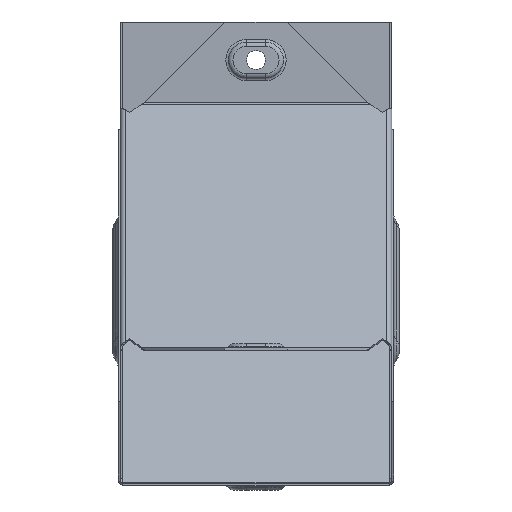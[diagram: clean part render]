
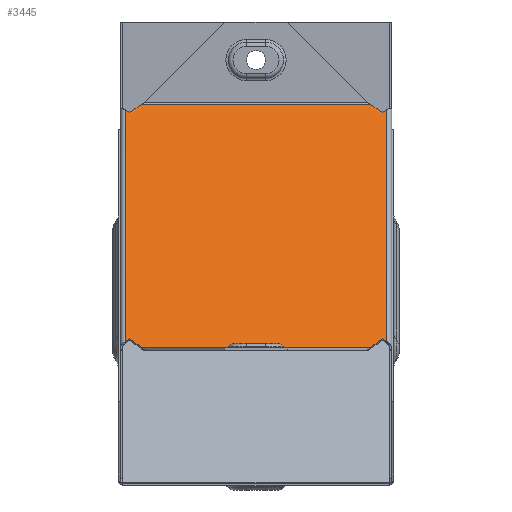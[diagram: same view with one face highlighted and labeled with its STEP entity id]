
A CAD part, front view. The second image highlights one B-rep face of the part: STEP entity #3445.
In plain terms, the highlighted planar face has unit normal (0, -0.707, 0.707).
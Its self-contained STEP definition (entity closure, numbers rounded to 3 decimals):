
#120 = VECTOR ( 'NONE', #571, 1000. ) ;
#146 = ORIENTED_EDGE ( 'NONE', *, *, #6575, .T. ) ;
#227 = CARTESIAN_POINT ( 'NONE',  ( 46.592, -26.588, -56.588 ) ) ;
#245 = CARTESIAN_POINT ( 'NONE',  ( -42.181, 59.707, 29.707 ) ) ;
#324 = CARTESIAN_POINT ( 'NONE',  ( 48.2, -29.707, -59.707 ) ) ;
#443 = ORIENTED_EDGE ( 'NONE', *, *, #4200, .T. ) ;
#448 = ORIENTED_EDGE ( 'NONE', *, *, #1142, .T. ) ;
#464 = LINE ( 'NONE', #5663, #6982 ) ;
#477 = VECTOR ( 'NONE', #4090, 1000. ) ;
#514 = LINE ( 'NONE', #5819, #120 ) ;
#571 = DIRECTION ( 'NONE',  ( -0.707, -0.5, -0.5 ) ) ;
#625 = CARTESIAN_POINT ( 'NONE',  ( 11.546, 81.369, 51.369 ) ) ;
#628 = ORIENTED_EDGE ( 'NONE', *, *, #3274, .F. ) ;
#644 = LINE ( 'NONE', #2866, #3770 ) ;
#869 = DIRECTION ( 'NONE',  ( -0.707, -0.5, -0.5 ) ) ;
#921 = DIRECTION ( 'NONE',  ( 0.707, -0.5, -0.5 ) ) ;
#1122 = EDGE_CURVE ( 'NONE', #3376, #5199, #3719, .T. ) ;
#1142 = EDGE_CURVE ( 'NONE', #3982, #2834, #514, .T. ) ;
#1323 = ORIENTED_EDGE ( 'NONE', *, *, #4747, .T. ) ;
#1379 = LINE ( 'NONE', #6985, #477 ) ;
#1469 = CARTESIAN_POINT ( 'NONE',  ( -50.299, 59.208, 29.208 ) ) ;
#1503 = ORIENTED_EDGE ( 'NONE', *, *, #2953, .F. ) ;
#1507 = VECTOR ( 'NONE', #2932, 1000. ) ;
#1618 = VECTOR ( 'NONE', #869, 1000. ) ;
#1831 = ORIENTED_EDGE ( 'NONE', *, *, #2989, .T. ) ;
#1869 = LINE ( 'NONE', #5130, #6930 ) ;
#1871 = VERTEX_POINT ( 'NONE', #2371 ) ;
#1878 = ORIENTED_EDGE ( 'NONE', *, *, #5162, .T. ) ;
#2154 = VERTEX_POINT ( 'NONE', #2533 ) ;
#2194 = DIRECTION ( 'NONE',  ( 0., 0.707, -0.707 ) ) ;
#2273 = ORIENTED_EDGE ( 'NONE', *, *, #3397, .T. ) ;
#2336 = CARTESIAN_POINT ( 'NONE',  ( -46.592, -26.588, -56.588 ) ) ;
#2371 = CARTESIAN_POINT ( 'NONE',  ( -42.181, -29.707, -59.707 ) ) ;
#2533 = CARTESIAN_POINT ( 'NONE',  ( -48.2, -27.724, -57.724 ) ) ;
#2672 = ORIENTED_EDGE ( 'NONE', *, *, #1122, .T. ) ;
#2693 = CARTESIAN_POINT ( 'NONE',  ( 48.2, 60., 30. ) ) ;
#2721 = LINE ( 'NONE', #1469, #3352 ) ;
#2774 = PLANE ( 'NONE',  #6503 ) ;
#2834 = VERTEX_POINT ( 'NONE', #6861 ) ;
#2856 = CARTESIAN_POINT ( 'NONE',  ( 42.181, 59.707, 29.707 ) ) ;
#2866 = CARTESIAN_POINT ( 'NONE',  ( 11.546, -51.369, -81.369 ) ) ;
#2876 = ORIENTED_EDGE ( 'NONE', *, *, #5978, .T. ) ;
#2924 = DIRECTION ( 'NONE',  ( 0.707, 0.5, 0.5 ) ) ;
#2932 = DIRECTION ( 'NONE',  ( 0.707, 0.5, 0.5 ) ) ;
#2953 = EDGE_CURVE ( 'NONE', #7329, #5199, #1379, .T. ) ;
#2989 = EDGE_CURVE ( 'NONE', #7387, #3376, #644, .T. ) ;
#2991 = CARTESIAN_POINT ( 'NONE',  ( 46.592, 56.588, 26.588 ) ) ;
#3003 = LINE ( 'NONE', #6478, #1507 ) ;
#3060 = VECTOR ( 'NONE', #3797, 1000. ) ;
#3084 = VECTOR ( 'NONE', #6270, 1000. ) ;
#3274 = EDGE_CURVE ( 'NONE', #7387, #1871, #5992, .T. ) ;
#3352 = VECTOR ( 'NONE', #7273, 1000. ) ;
#3376 = VERTEX_POINT ( 'NONE', #227 ) ;
#3397 = EDGE_CURVE ( 'NONE', #2834, #5244, #2721, .T. ) ;
#3445 = ADVANCED_FACE ( 'NONE', ( #7034 ), #2774, .F. ) ;
#3645 = VERTEX_POINT ( 'NONE', #2856 ) ;
#3675 = CARTESIAN_POINT ( 'NONE',  ( 50.299, 59.208, 29.208 ) ) ;
#3719 = LINE ( 'NONE', #5191, #3084 ) ;
#3770 = VECTOR ( 'NONE', #2924, 1000. ) ;
#3797 = DIRECTION ( 'NONE',  ( -1., 0., 0. ) ) ;
#3799 = LINE ( 'NONE', #3675, #1618 ) ;
#3871 = DIRECTION ( 'NONE',  ( -1., 0., 0. ) ) ;
#3903 = CARTESIAN_POINT ( 'NONE',  ( 48.2, -27.724, -57.724 ) ) ;
#3982 = VERTEX_POINT ( 'NONE', #245 ) ;
#4041 = CARTESIAN_POINT ( 'NONE',  ( -48.2, 57.724, 27.724 ) ) ;
#4080 = LINE ( 'NONE', #4657, #4164 ) ;
#4090 = DIRECTION ( 'NONE',  ( 0., -0.707, -0.707 ) ) ;
#4110 = CARTESIAN_POINT ( 'NONE',  ( 42.181, -29.707, -59.707 ) ) ;
#4164 = VECTOR ( 'NONE', #4606, 1000. ) ;
#4200 = EDGE_CURVE ( 'NONE', #7329, #5384, #3799, .T. ) ;
#4606 = DIRECTION ( 'NONE',  ( 0., -0.707, -0.707 ) ) ;
#4617 = LINE ( 'NONE', #625, #5262 ) ;
#4657 = CARTESIAN_POINT ( 'NONE',  ( -48.2, 60., 30. ) ) ;
#4669 = CARTESIAN_POINT ( 'NONE',  ( 48.2, 57.724, 27.724 ) ) ;
#4732 = DIRECTION ( 'NONE',  ( -0.707, 0.5, 0.5 ) ) ;
#4747 = EDGE_CURVE ( 'NONE', #2154, #7088, #3003, .T. ) ;
#5130 = CARTESIAN_POINT ( 'NONE',  ( 48.2, 59.707, 29.707 ) ) ;
#5162 = EDGE_CURVE ( 'NONE', #3645, #3982, #1869, .T. ) ;
#5191 = CARTESIAN_POINT ( 'NONE',  ( 50.299, -29.208, -59.208 ) ) ;
#5199 = VERTEX_POINT ( 'NONE', #3903 ) ;
#5244 = VERTEX_POINT ( 'NONE', #4041 ) ;
#5262 = VECTOR ( 'NONE', #4732, 1000. ) ;
#5384 = VERTEX_POINT ( 'NONE', #2991 ) ;
#5609 = EDGE_CURVE ( 'NONE', #5244, #2154, #4080, .T. ) ;
#5663 = CARTESIAN_POINT ( 'NONE',  ( -11.546, -51.369, -81.369 ) ) ;
#5819 = CARTESIAN_POINT ( 'NONE',  ( -11.546, 81.369, 51.369 ) ) ;
#5978 = EDGE_CURVE ( 'NONE', #5384, #3645, #4617, .T. ) ;
#5992 = LINE ( 'NONE', #324, #3060 ) ;
#6270 = DIRECTION ( 'NONE',  ( 0.707, -0.5, -0.5 ) ) ;
#6278 = EDGE_LOOP ( 'NONE', ( #443, #2876, #1878, #448, #2273, #7238, #1323, #146, #628, #1831, #2672, #1503 ) ) ;
#6478 = CARTESIAN_POINT ( 'NONE',  ( -50.299, -29.208, -59.208 ) ) ;
#6503 = AXIS2_PLACEMENT_3D ( 'NONE', #2693, #2194, #7476 ) ;
#6575 = EDGE_CURVE ( 'NONE', #7088, #1871, #464, .T. ) ;
#6861 = CARTESIAN_POINT ( 'NONE',  ( -46.592, 56.588, 26.588 ) ) ;
#6930 = VECTOR ( 'NONE', #3871, 1000. ) ;
#6982 = VECTOR ( 'NONE', #921, 1000. ) ;
#6985 = CARTESIAN_POINT ( 'NONE',  ( 48.2, 60., 30. ) ) ;
#7034 = FACE_OUTER_BOUND ( 'NONE', #6278, .T. ) ;
#7088 = VERTEX_POINT ( 'NONE', #2336 ) ;
#7238 = ORIENTED_EDGE ( 'NONE', *, *, #5609, .T. ) ;
#7273 = DIRECTION ( 'NONE',  ( -0.707, 0.5, 0.5 ) ) ;
#7329 = VERTEX_POINT ( 'NONE', #4669 ) ;
#7387 = VERTEX_POINT ( 'NONE', #4110 ) ;
#7476 = DIRECTION ( 'NONE',  ( 0., 0.707, 0.707 ) ) ;
